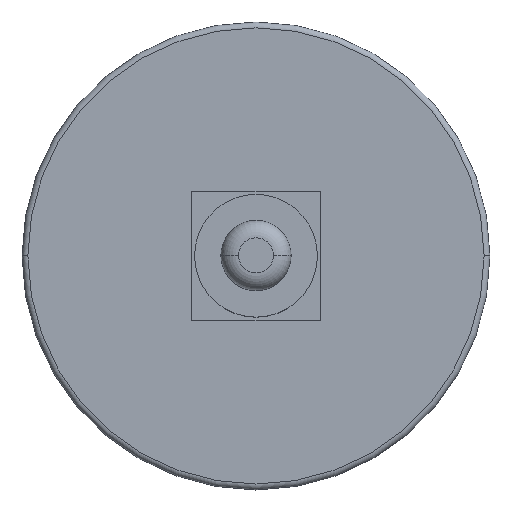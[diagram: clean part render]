
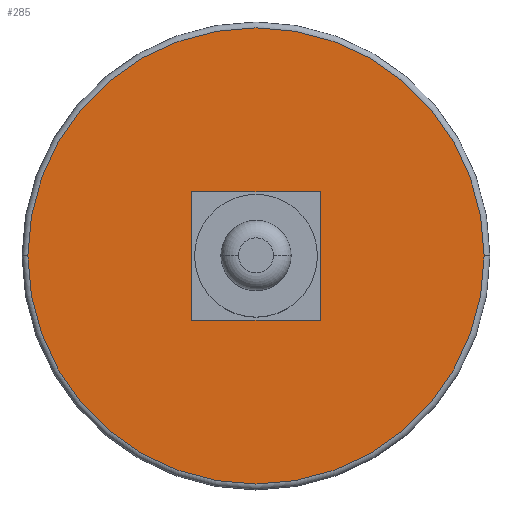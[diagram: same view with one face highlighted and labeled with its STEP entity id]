
A CAD part, top view. The second image highlights one B-rep face of the part: STEP entity #285.
In plain terms, the highlighted planar face has unit normal (0, 0, 1).
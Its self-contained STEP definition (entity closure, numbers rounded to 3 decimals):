
#3 = EDGE_LOOP ( 'NONE', ( #211, #82, #104, #415 ) ) ;
#5 = AXIS2_PLACEMENT_3D ( 'NONE', #481, #476, #56 ) ;
#12 = CARTESIAN_POINT ( 'NONE',  ( 11., -11., 10.5 ) ) ;
#15 = VERTEX_POINT ( 'NONE', #374 ) ;
#16 = VECTOR ( 'NONE', #572, 1000. ) ;
#21 = CARTESIAN_POINT ( 'NONE',  ( -11., 11., 10.5 ) ) ;
#41 = LINE ( 'NONE', #233, #197 ) ;
#56 = DIRECTION ( 'NONE',  ( 1., 0., 0. ) ) ;
#63 = DIRECTION ( 'NONE',  ( 0., 0., 1. ) ) ;
#79 = CARTESIAN_POINT ( 'NONE',  ( -11., -11., 10.5 ) ) ;
#82 = ORIENTED_EDGE ( 'NONE', *, *, #132, .F. ) ;
#88 = CARTESIAN_POINT ( 'NONE',  ( 11., 11., 10.5 ) ) ;
#99 = CIRCLE ( 'NONE', #180, 39. ) ;
#104 = ORIENTED_EDGE ( 'NONE', *, *, #125, .F. ) ;
#111 = FACE_BOUND ( 'NONE', #3, .T. ) ;
#119 = FACE_OUTER_BOUND ( 'NONE', #196, .T. ) ;
#125 = EDGE_CURVE ( 'NONE', #368, #15, #486, .T. ) ;
#132 = EDGE_CURVE ( 'NONE', #15, #424, #542, .T. ) ;
#152 = VECTOR ( 'NONE', #402, 1000. ) ;
#155 = CARTESIAN_POINT ( 'NONE',  ( -11., 11., 10.5 ) ) ;
#157 = DIRECTION ( 'NONE',  ( 1., 0., 0. ) ) ;
#162 = DIRECTION ( 'NONE',  ( 0., 0., 1. ) ) ;
#180 = AXIS2_PLACEMENT_3D ( 'NONE', #257, #63, #584 ) ;
#189 = ORIENTED_EDGE ( 'NONE', *, *, #229, .T. ) ;
#196 = EDGE_LOOP ( 'NONE', ( #258, #189 ) ) ;
#197 = VECTOR ( 'NONE', #221, 1000. ) ;
#203 = LINE ( 'NONE', #21, #152 ) ;
#211 = ORIENTED_EDGE ( 'NONE', *, *, #551, .F. ) ;
#218 = CARTESIAN_POINT ( 'NONE',  ( 0., 0., 10.5 ) ) ;
#221 = DIRECTION ( 'NONE',  ( 0., 1., 0. ) ) ;
#226 = AXIS2_PLACEMENT_3D ( 'NONE', #218, #162, #157 ) ;
#229 = EDGE_CURVE ( 'NONE', #262, #520, #99, .T. ) ;
#233 = CARTESIAN_POINT ( 'NONE',  ( 11., 11., 10.5 ) ) ;
#252 = CARTESIAN_POINT ( 'NONE',  ( -11., 11., 10.5 ) ) ;
#257 = CARTESIAN_POINT ( 'NONE',  ( 0., 0., 10.5 ) ) ;
#258 = ORIENTED_EDGE ( 'NONE', *, *, #416, .T. ) ;
#262 = VERTEX_POINT ( 'NONE', #352 ) ;
#281 = VECTOR ( 'NONE', #435, 1000. ) ;
#285 = ADVANCED_FACE ( 'NONE', ( #119, #111 ), #436, .T. ) ;
#352 = CARTESIAN_POINT ( 'NONE',  ( -39., 0., 10.5 ) ) ;
#366 = CARTESIAN_POINT ( 'NONE',  ( 39., 0., 10.5 ) ) ;
#368 = VERTEX_POINT ( 'NONE', #252 ) ;
#374 = CARTESIAN_POINT ( 'NONE',  ( -11., -11., 10.5 ) ) ;
#384 = EDGE_CURVE ( 'NONE', #535, #368, #203, .T. ) ;
#402 = DIRECTION ( 'NONE',  ( -1., 0., 0. ) ) ;
#415 = ORIENTED_EDGE ( 'NONE', *, *, #384, .F. ) ;
#416 = EDGE_CURVE ( 'NONE', #520, #262, #496, .T. ) ;
#424 = VERTEX_POINT ( 'NONE', #12 ) ;
#435 = DIRECTION ( 'NONE',  ( 0., -1., 0. ) ) ;
#436 = PLANE ( 'NONE',  #226 ) ;
#476 = DIRECTION ( 'NONE',  ( 0., 0., 1. ) ) ;
#481 = CARTESIAN_POINT ( 'NONE',  ( 0., 0., 10.5 ) ) ;
#486 = LINE ( 'NONE', #155, #281 ) ;
#496 = CIRCLE ( 'NONE', #5, 39. ) ;
#520 = VERTEX_POINT ( 'NONE', #366 ) ;
#535 = VERTEX_POINT ( 'NONE', #88 ) ;
#542 = LINE ( 'NONE', #79, #16 ) ;
#551 = EDGE_CURVE ( 'NONE', #424, #535, #41, .T. ) ;
#572 = DIRECTION ( 'NONE',  ( 1., 0., 0. ) ) ;
#584 = DIRECTION ( 'NONE',  ( 1., 0., 0. ) ) ;
